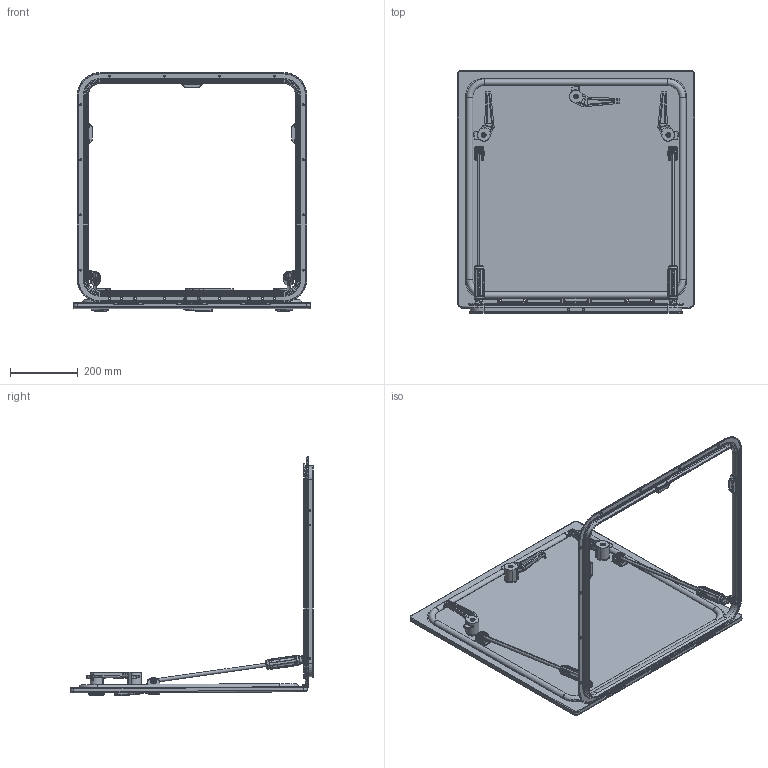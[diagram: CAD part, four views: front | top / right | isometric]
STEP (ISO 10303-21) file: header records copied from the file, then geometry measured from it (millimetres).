
FILE_DESCRIPTION((''),'2;1');
FILE_NAME('39970X1Y_MOD_ASM','2009-12-17T',('awickes'),(''),'PRO/ENGINEER BY PARAMETRIC TECHNOLOGY CORPORATION, 2007030','PRO/ENGINEER BY PARAMETRIC TECHNOLOGY CORPORATION, 2007030','');
FILE_SCHEMA(('CONFIG_CONTROL_DESIGN'));
Length unit declared in the file: millimetre
Products named in the file (24): 35002018Y_MOD; 35001733; 35001706; 35000998Z; 38002018Y_MOD_ASM; 35002017X_MOD; 35001707Z; 35001709Z; 35001959Y; 30191500_SEAL; 15801372Z; 35000999Z; 35001016Z; RH_LARGE_HANDLE_ASM; 15801371Z; 35001015Z; LH_LARGE_HANDLE_ASM; 38002017X_MOD_ASM; 35001703; 35001704; 35001007; 38001770Z_AF0_ASM; 38001770Z_AF1_ASM; 39970X1Y_MOD_ASM
Assembly tree (37 placements, depth 4):
  39970X1Y_MOD_ASM
    38002018Y_MOD_ASM
      35002018Y_MOD
      35001733  x3
      35001706  x2
      35000998Z  x3
    38002017X_MOD_ASM
      35002017X_MOD
      35001707Z  x2
      35001709Z  x2
      35001959Y  x3
      30191500_SEAL
      RH_LARGE_HANDLE_ASM  x2
        15801372Z
        35000999Z
        35001016Z
      LH_LARGE_HANDLE_ASM
        15801371Z
        35000999Z
        35001015Z
    38001770Z_AF0_ASM
      35001703
      35001704
      35001007
    38001770Z_AF1_ASM
      35001703
      35001704
      35001007
Bounding box: 697 x 715.97 x 703.42 mm (x, y, z)
Volume: 8501801 mm3; surface area: 1846535.8 mm2
Topology: 37 solids, 38 shells, 3889 faces, 9673 edges, 5944 vertices
Faces by surface type: cylinder 1315, plane 1192, bspline 699, torus 317, cone 247, sphere 103, extrusion 16
Entity records: 90098 total; most frequent: CARTESIAN_POINT 39714, ORIENTED_EDGE 10820, DIRECTION 9856, EDGE_CURVE 5410, AXIS2_PLACEMENT_3D 3760, VERTEX_POINT 3326, EDGE_LOOP 2390, VECTOR 2336
